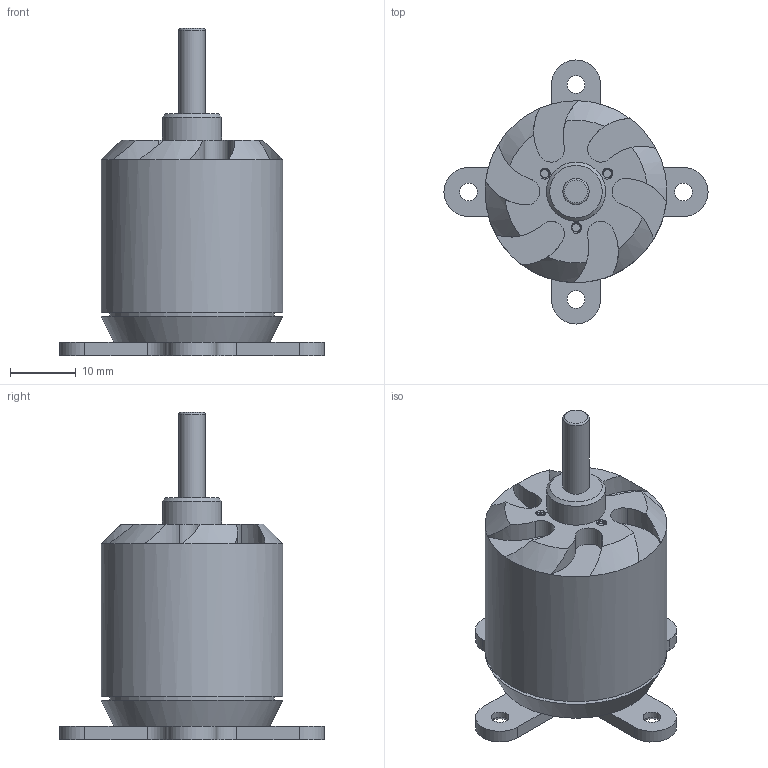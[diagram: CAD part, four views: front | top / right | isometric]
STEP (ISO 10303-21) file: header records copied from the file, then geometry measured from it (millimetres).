
FILE_DESCRIPTION(/* description */ (''),/* implementation_level */ '2;1');
FILE_NAME(/* name */ 'Waffenmotor.step',/* time_stamp */ '2023-12-18T15:17:48+01:00',/* author */ (''),/* organization */ (''),/* preprocessor_version */ 'ST-DEVELOPER v20',/* originating_system */ 'Autodesk Translation Framework v12.14.0.127',/* authorisation */ '');
FILE_SCHEMA (('AUTOMOTIVE_DESIGN { 1 0 10303 214 3 1 1 }'));
Length unit declared in the file: millimetre
Products named in the file (1): Waffenmotor SS2022
Bounding box: 40.2 x 40.2 x 49.8 mm (x, y, z)
Volume: 18053.6 mm3; surface area: 5570.8 mm2
Topology: 1 solids, 1 shells, 155 faces, 410 edges, 261 vertices
Faces by surface type: cylinder 96, plane 40, cone 12, bspline 6, torus 1
Full cylindrical faces by diameter (mm): 1.271 x9, 1.668 x6, 2.7 x4, 4 x1, 6 x4, 9 x1, 10 x1, 25 x1, 27.7 x1
Entity records: 8588 total; most frequent: CARTESIAN_POINT 4787, ORIENTED_EDGE 820, DIRECTION 714, EDGE_CURVE 410, AXIS2_PLACEMENT_3D 292, VERTEX_POINT 261, EDGE_LOOP 171, FACE_OUTER_BOUND 155
